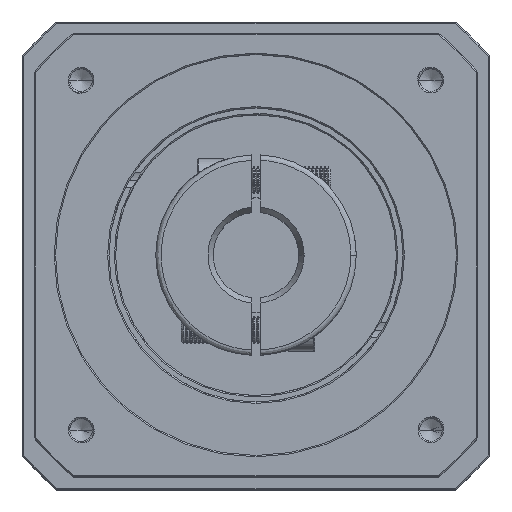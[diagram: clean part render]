
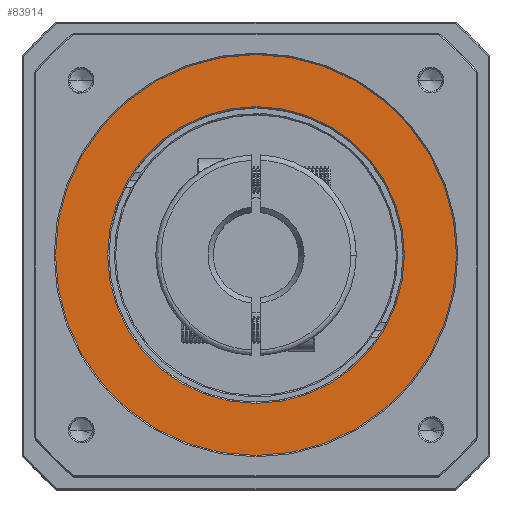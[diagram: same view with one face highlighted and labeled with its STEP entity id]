
A CAD part, top view. The second image highlights one B-rep face of the part: STEP entity #83914.
In plain terms, the highlighted planar face has unit normal (0, 0, 1).
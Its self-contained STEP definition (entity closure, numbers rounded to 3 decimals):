
#13554 = VERTEX_POINT ( 'NONE', #37242 ) ;
#19182 = EDGE_CURVE ( 'NONE', #102634, #97317, #48467, .T. ) ;
#21036 = EDGE_CURVE ( 'NONE', #97317, #102634, #41303, .T. ) ;
#24418 = FACE_OUTER_BOUND ( 'NONE', #120896, .T. ) ;
#25331 = CIRCLE ( 'NONE', #53507, 55.5 ) ;
#26374 = ORIENTED_EDGE ( 'NONE', *, *, #119156, .T. ) ;
#26814 = AXIS2_PLACEMENT_3D ( 'NONE', #36362, #99660, #68712 ) ;
#30580 = ORIENTED_EDGE ( 'NONE', *, *, #19182, .T. ) ;
#32190 = DIRECTION ( 'NONE',  ( 1., 0., 0. ) ) ;
#36362 = CARTESIAN_POINT ( 'NONE',  ( -87.479, 83.421, 22.621 ) ) ;
#36634 = CARTESIAN_POINT ( 'NONE',  ( -87.479, 83.421, 22.621 ) ) ;
#37242 = CARTESIAN_POINT ( 'NONE',  ( -142.979, 83.421, 22.621 ) ) ;
#41303 = CIRCLE ( 'NONE', #96824, 75. ) ;
#45426 = DIRECTION ( 'NONE',  ( 0., 0., -1. ) ) ;
#47901 = AXIS2_PLACEMENT_3D ( 'NONE', #126492, #45426, #55408 ) ;
#48467 = CIRCLE ( 'NONE', #26814, 75. ) ;
#53507 = AXIS2_PLACEMENT_3D ( 'NONE', #98082, #54470, #87609 ) ;
#54470 = DIRECTION ( 'NONE',  ( 0., 0., -1. ) ) ;
#55408 = DIRECTION ( 'NONE',  ( 1., 0., 0. ) ) ;
#55455 = EDGE_LOOP ( 'NONE', ( #106908, #26374 ) ) ;
#63244 = EDGE_CURVE ( 'NONE', #131726, #13554, #99535, .T. ) ;
#65823 = PLANE ( 'NONE',  #88857 ) ;
#68638 = CARTESIAN_POINT ( 'NONE',  ( -87.479, 83.421, 22.621 ) ) ;
#68712 = DIRECTION ( 'NONE',  ( 1., 0., 0. ) ) ;
#69814 = ORIENTED_EDGE ( 'NONE', *, *, #21036, .T. ) ;
#79063 = DIRECTION ( 'NONE',  ( 0., 0., 1. ) ) ;
#82437 = CARTESIAN_POINT ( 'NONE',  ( -12.479, 83.421, 22.621 ) ) ;
#83914 = ADVANCED_FACE ( 'NONE', ( #96137, #24418 ), #65823, .T. ) ;
#87609 = DIRECTION ( 'NONE',  ( 1., 0., 0. ) ) ;
#88857 = AXIS2_PLACEMENT_3D ( 'NONE', #36634, #109506, #118227 ) ;
#96137 = FACE_BOUND ( 'NONE', #55455, .T. ) ;
#96824 = AXIS2_PLACEMENT_3D ( 'NONE', #68638, #79063, #32190 ) ;
#97317 = VERTEX_POINT ( 'NONE', #122656 ) ;
#98082 = CARTESIAN_POINT ( 'NONE',  ( -87.479, 83.421, 22.621 ) ) ;
#99535 = CIRCLE ( 'NONE', #47901, 55.5 ) ;
#99660 = DIRECTION ( 'NONE',  ( 0., 0., 1. ) ) ;
#102634 = VERTEX_POINT ( 'NONE', #82437 ) ;
#106908 = ORIENTED_EDGE ( 'NONE', *, *, #63244, .T. ) ;
#109506 = DIRECTION ( 'NONE',  ( 0., 0., 1. ) ) ;
#114253 = CARTESIAN_POINT ( 'NONE',  ( -31.979, 83.421, 22.621 ) ) ;
#118227 = DIRECTION ( 'NONE',  ( 1., 0., 0. ) ) ;
#119156 = EDGE_CURVE ( 'NONE', #13554, #131726, #25331, .T. ) ;
#120896 = EDGE_LOOP ( 'NONE', ( #30580, #69814 ) ) ;
#122656 = CARTESIAN_POINT ( 'NONE',  ( -162.479, 83.421, 22.621 ) ) ;
#126492 = CARTESIAN_POINT ( 'NONE',  ( -87.479, 83.421, 22.621 ) ) ;
#131726 = VERTEX_POINT ( 'NONE', #114253 ) ;
